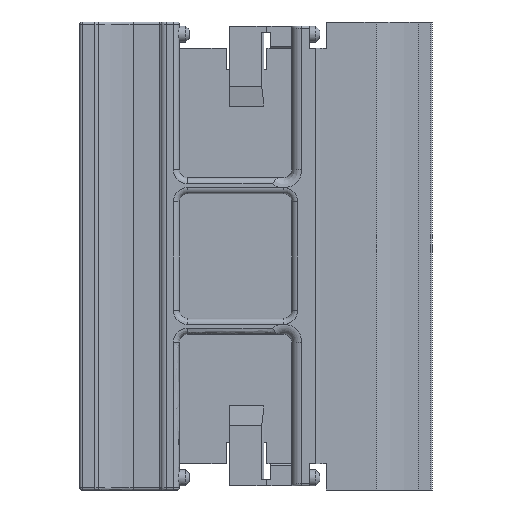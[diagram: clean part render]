
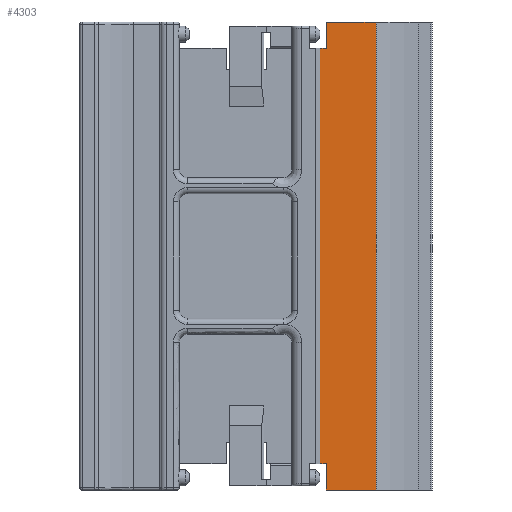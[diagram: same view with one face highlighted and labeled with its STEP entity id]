
A CAD part, front view. The second image highlights one B-rep face of the part: STEP entity #4303.
In plain terms, the highlighted planar face has unit normal (0, -1, 0).
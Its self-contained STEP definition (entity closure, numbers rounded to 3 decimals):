
#3693=CARTESIAN_POINT('',(225.561,163.797,60.));
#3694=VERTEX_POINT('',#3693);
#3695=CARTESIAN_POINT('',(225.561,163.797,66.5));
#3696=VERTEX_POINT('',#3695);
#3697=CARTESIAN_POINT('',(225.561,163.797,60.));
#3698=DIRECTION('',(0.0,0.0,1.0));
#3699=VECTOR('',#3698,6.5);
#3700=LINE('',#3697,#3699);
#3701=EDGE_CURVE('',#3694,#3696,#3700,.T.);
#3733=CARTESIAN_POINT('',(223.962,163.797,66.5));
#3734=VERTEX_POINT('',#3733);
#3735=CARTESIAN_POINT('',(225.561,163.797,66.5));
#3736=DIRECTION('',(-1.0,0.0,0.0));
#3737=VECTOR('',#3736,1.6);
#3738=LINE('',#3735,#3737);
#3739=EDGE_CURVE('',#3696,#3734,#3738,.T.);
#3976=CARTESIAN_POINT('',(238.014,163.797,60.));
#3977=VERTEX_POINT('',#3976);
#3985=CARTESIAN_POINT('',(238.014,163.797,60.));
#3986=DIRECTION('',(-1.0,0.0,0.0));
#3987=VECTOR('',#3986,12.453);
#3988=LINE('',#3985,#3987);
#3989=EDGE_CURVE('',#3977,#3694,#3988,.T.);
#4243=CARTESIAN_POINT('',(223.962,163.797,170.1));
#4244=VERTEX_POINT('',#4243);
#4245=CARTESIAN_POINT('',(223.962,163.797,66.5));
#4246=DIRECTION('',(0.0,0.0,1.0));
#4247=VECTOR('',#4246,103.6);
#4248=LINE('',#4245,#4247);
#4249=EDGE_CURVE('',#3734,#4244,#4248,.T.);
#4262=CARTESIAN_POINT('',(238.014,163.797,0.0));
#4263=DIRECTION('',(0.0,-1.0,0.0));
#4264=DIRECTION('',(0.0,0.0,-1.0));
#4265=AXIS2_PLACEMENT_3D('',#4262,#4263,#4264);
#4266=PLANE('',#4265);
#4267=CARTESIAN_POINT('',(238.014,163.797,176.6));
#4268=VERTEX_POINT('',#4267);
#4269=CARTESIAN_POINT('',(238.014,163.797,60.));
#4270=DIRECTION('',(0.0,0.0,1.0));
#4271=VECTOR('',#4270,116.6);
#4272=LINE('',#4269,#4271);
#4273=EDGE_CURVE('',#3977,#4268,#4272,.T.);
#4274=ORIENTED_EDGE('',*,*,#4273,.T.);
#4275=CARTESIAN_POINT('',(225.561,163.797,176.6));
#4276=VERTEX_POINT('',#4275);
#4277=CARTESIAN_POINT('',(238.014,163.797,176.6));
#4278=DIRECTION('',(-1.0,0.0,0.0));
#4279=VECTOR('',#4278,12.453);
#4280=LINE('',#4277,#4279);
#4281=EDGE_CURVE('',#4268,#4276,#4280,.T.);
#4282=ORIENTED_EDGE('',*,*,#4281,.T.);
#4283=CARTESIAN_POINT('',(225.561,163.797,170.1));
#4284=VERTEX_POINT('',#4283);
#4285=CARTESIAN_POINT('',(225.561,163.797,176.6));
#4286=DIRECTION('',(0.0,0.0,-1.0));
#4287=VECTOR('',#4286,6.5);
#4288=LINE('',#4285,#4287);
#4289=EDGE_CURVE('',#4276,#4284,#4288,.T.);
#4290=ORIENTED_EDGE('',*,*,#4289,.T.);
#4291=CARTESIAN_POINT('',(225.561,163.797,170.1));
#4292=DIRECTION('',(-1.0,0.0,0.0));
#4293=VECTOR('',#4292,1.6);
#4294=LINE('',#4291,#4293);
#4295=EDGE_CURVE('',#4284,#4244,#4294,.T.);
#4296=ORIENTED_EDGE('',*,*,#4295,.T.);
#4297=ORIENTED_EDGE('',*,*,#4249,.F.);
#4298=ORIENTED_EDGE('',*,*,#3739,.F.);
#4299=ORIENTED_EDGE('',*,*,#3701,.F.);
#4300=ORIENTED_EDGE('',*,*,#3989,.F.);
#4301=EDGE_LOOP('',(#4274,#4282,#4290,#4296,#4297,#4298,#4299,#4300));
#4302=FACE_OUTER_BOUND('',#4301,.T.);
#4303=ADVANCED_FACE('',(#4302),#4266,.T.);
